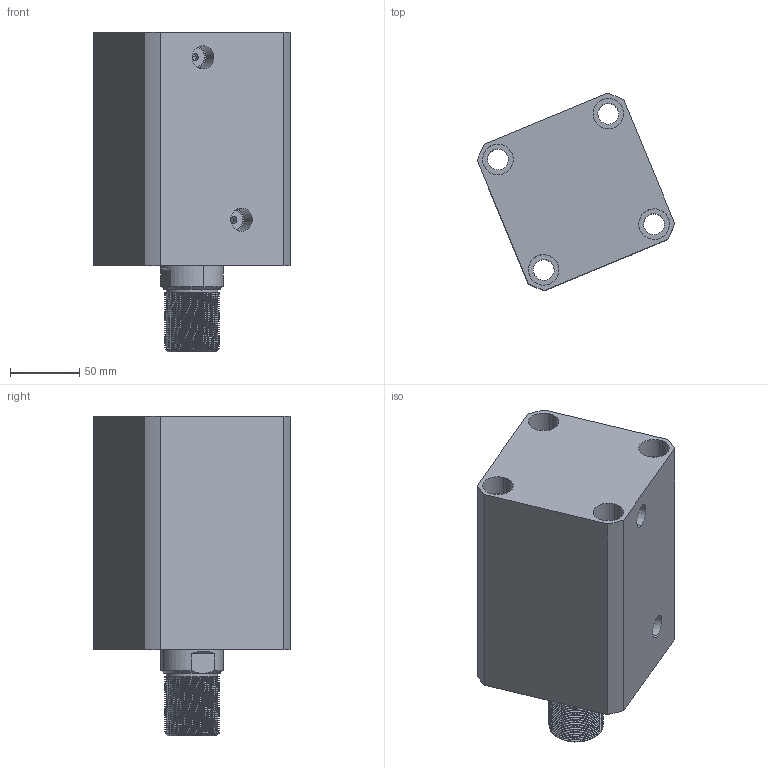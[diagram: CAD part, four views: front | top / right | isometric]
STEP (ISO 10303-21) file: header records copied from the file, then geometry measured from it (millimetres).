
FILE_DESCRIPTION (( 'STEP AP214' ), '1' );
FILE_NAME ('chtb-sd80x90n_asm.STEP', '2018-05-26T08:57:58', ( 'Windows' ), ( 'Microsoft' ), 'SwSTEP 2.0', 'SolidWorks 2015', '' );
FILE_SCHEMA (( 'AUTOMOTIVE_DESIGN' ));
Length unit declared in the file: millimetre
Products named in the file (4): CHTB-SD80QG; chtb-sd80x90n_asm; CHTB-SD80X90NHSG; CHTB-SD80X90NBT
Assembly tree (3 placements, depth 2):
  chtb-sd80x90n_asm
    CHTB-SD80QG
    CHTB-SD80X90NBT
    CHTB-SD80X90NHSG
Bounding box: 142.06 x 142.06 x 230 mm (x, y, z)
Volume: 1760142 mm3; surface area: 247832.7 mm2
Topology: 3 solids, 3 shells, 253 faces, 689 edges, 462 vertices
Faces by surface type: cylinder 159, plane 40, cone 20, torus 18, bspline 16
Entity records: 20271 total; most frequent: CARTESIAN_POINT 14293, ORIENTED_EDGE 1370, DIRECTION 1078, EDGE_CURVE 685, VERTEX_POINT 462, AXIS2_PLACEMENT_3D 439, EDGE_LOOP 291, FACE_OUTER_BOUND 253
